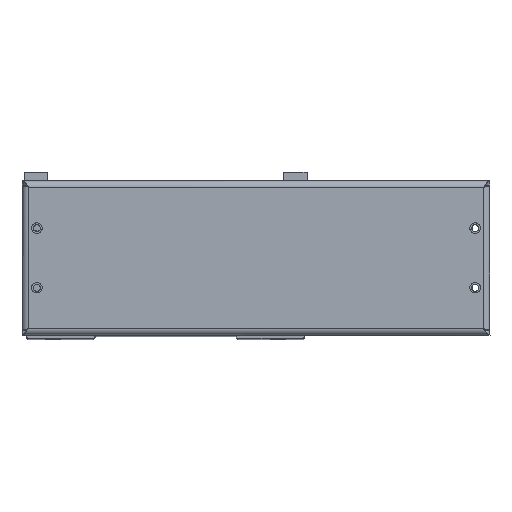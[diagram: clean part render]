
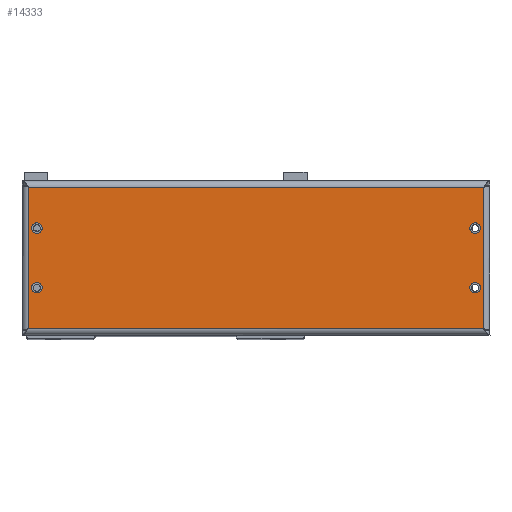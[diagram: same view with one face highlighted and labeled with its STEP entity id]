
A CAD part, top view. The second image highlights one B-rep face of the part: STEP entity #14333.
In plain terms, the highlighted planar face has unit normal (0, 0, 1) as drawn and (0, 0, -1) by its records, which use the part's own axes.
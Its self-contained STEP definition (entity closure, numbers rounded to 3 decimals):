
#923 = VERTEX_POINT ( 'NONE', #20163 ) ;
#1189 = DIRECTION ( 'NONE',  ( 0., -1., 0. ) ) ;
#1326 = ORIENTED_EDGE ( 'NONE', *, *, #20600, .F. ) ;
#1400 = DIRECTION ( 'NONE',  ( 0., -1., 0. ) ) ;
#1581 = EDGE_CURVE ( 'NONE', #26733, #30347, #24415, .T. ) ;
#1883 = CARTESIAN_POINT ( 'NONE',  ( 2817.591, 279.134, -52. ) ) ;
#2396 = DIRECTION ( 'NONE',  ( 1., 0., 0. ) ) ;
#2474 = DIRECTION ( 'NONE',  ( 0., -1., 0. ) ) ;
#2994 = LINE ( 'NONE', #3181, #24336 ) ;
#3179 = CARTESIAN_POINT ( 'NONE',  ( 2817.591, 279.134, -52. ) ) ;
#3181 = CARTESIAN_POINT ( 'NONE',  ( 3028.237, 231.884, -52. ) ) ;
#3282 = VERTEX_POINT ( 'NONE', #13689 ) ;
#3433 = CARTESIAN_POINT ( 'NONE',  ( 3023.591, 251.134, -52. ) ) ;
#4009 = ORIENTED_EDGE ( 'NONE', *, *, #29761, .F. ) ;
#4285 = CARTESIAN_POINT ( 'NONE',  ( 3023.591, 279.134, -52. ) ) ;
#4293 = VERTEX_POINT ( 'NONE', #26505 ) ;
#4751 = CARTESIAN_POINT ( 'NONE',  ( 2817.591, 276.634, -52. ) ) ;
#5180 = DIRECTION ( 'NONE',  ( 0., 1., 0. ) ) ;
#5340 = CARTESIAN_POINT ( 'NONE',  ( 3023.591, 281.634, -52. ) ) ;
#5463 = LINE ( 'NONE', #12819, #9671 ) ;
#5600 = EDGE_LOOP ( 'NONE', ( #7021, #1326 ) ) ;
#5905 = DIRECTION ( 'NONE',  ( -1., 0., 0. ) ) ;
#5975 = CARTESIAN_POINT ( 'NONE',  ( 2817.591, 281.634, -52. ) ) ;
#6000 = ORIENTED_EDGE ( 'NONE', *, *, #11256, .T. ) ;
#6008 = VERTEX_POINT ( 'NONE', #11257 ) ;
#6685 = DIRECTION ( 'NONE',  ( 0., -1., 0. ) ) ;
#6817 = DIRECTION ( 'NONE',  ( 0., 0., -1. ) ) ;
#6974 = DIRECTION ( 'NONE',  ( 0., -1., 0. ) ) ;
#7021 = ORIENTED_EDGE ( 'NONE', *, *, #32931, .F. ) ;
#7142 = FACE_BOUND ( 'NONE', #19488, .T. ) ;
#7304 = CARTESIAN_POINT ( 'NONE',  ( 3027.591, 231.884, -52. ) ) ;
#7708 = DIRECTION ( 'NONE',  ( 0., -1., 0. ) ) ;
#7861 = DIRECTION ( 'NONE',  ( 0., 0., -1. ) ) ;
#7975 = CIRCLE ( 'NONE', #23797, 2.5 ) ;
#8033 = AXIS2_PLACEMENT_3D ( 'NONE', #3179, #15995, #16968 ) ;
#8364 = ORIENTED_EDGE ( 'NONE', *, *, #13301, .F. ) ;
#8413 = LINE ( 'NONE', #18846, #11291 ) ;
#9671 = VECTOR ( 'NONE', #2396, 1000. ) ;
#9830 = AXIS2_PLACEMENT_3D ( 'NONE', #4285, #6817, #9900 ) ;
#9900 = DIRECTION ( 'NONE',  ( 0., -1., 0. ) ) ;
#10560 = EDGE_CURVE ( 'NONE', #923, #28933, #20935, .T. ) ;
#10979 = CARTESIAN_POINT ( 'NONE',  ( 3023.591, 253.634, -52. ) ) ;
#10988 = EDGE_CURVE ( 'NONE', #26221, #26600, #20589, .T. ) ;
#11256 = EDGE_CURVE ( 'NONE', #4293, #923, #5463, .T. ) ;
#11257 = CARTESIAN_POINT ( 'NONE',  ( 2817.591, 253.634, -52. ) ) ;
#11291 = VECTOR ( 'NONE', #5180, 1000. ) ;
#12798 = VERTEX_POINT ( 'NONE', #30054 ) ;
#12819 = CARTESIAN_POINT ( 'NONE',  ( 2812.944, 298.384, -52. ) ) ;
#12828 = CARTESIAN_POINT ( 'NONE',  ( 2817.591, 251.134, -52. ) ) ;
#13301 = EDGE_CURVE ( 'NONE', #26600, #26221, #19579, .T. ) ;
#13548 = DIRECTION ( 'NONE',  ( 0., 0., -1. ) ) ;
#13618 = EDGE_LOOP ( 'NONE', ( #6000, #30188, #26765, #14777 ) ) ;
#13689 = CARTESIAN_POINT ( 'NONE',  ( 2817.591, 248.634, -52. ) ) ;
#13879 = EDGE_LOOP ( 'NONE', ( #8364, #23659 ) ) ;
#14333 = ADVANCED_FACE ( 'NONE', ( #7142, #19944, #30228, #30570, #23191 ), #30394, .T. ) ;
#14777 = ORIENTED_EDGE ( 'NONE', *, *, #28226, .T. ) ;
#15069 = ORIENTED_EDGE ( 'NONE', *, *, #1581, .F. ) ;
#15539 = AXIS2_PLACEMENT_3D ( 'NONE', #1883, #32340, #6685 ) ;
#15995 = DIRECTION ( 'NONE',  ( 0., 0., -1. ) ) ;
#16023 = CIRCLE ( 'NONE', #24757, 2.5 ) ;
#16549 = DIRECTION ( 'NONE',  ( 0., 0., -1. ) ) ;
#16968 = DIRECTION ( 'NONE',  ( 0., -1., 0. ) ) ;
#17108 = CIRCLE ( 'NONE', #21469, 2.5 ) ;
#17342 = DIRECTION ( 'NONE',  ( 0., 0., -1. ) ) ;
#17733 = DIRECTION ( 'NONE',  ( 0., 0., -1. ) ) ;
#18824 = CARTESIAN_POINT ( 'NONE',  ( 3023.591, 279.134, -52. ) ) ;
#18846 = CARTESIAN_POINT ( 'NONE',  ( 2813.591, 231.238, -52. ) ) ;
#19430 = EDGE_CURVE ( 'NONE', #30347, #26733, #29737, .T. ) ;
#19488 = EDGE_LOOP ( 'NONE', ( #21324, #15069 ) ) ;
#19491 = DIRECTION ( 'NONE',  ( 0., -1., 0. ) ) ;
#19579 = CIRCLE ( 'NONE', #9830, 2.5 ) ;
#19883 = CARTESIAN_POINT ( 'NONE',  ( 3023.591, 251.134, -52. ) ) ;
#19944 = FACE_BOUND ( 'NONE', #5600, .T. ) ;
#20163 = CARTESIAN_POINT ( 'NONE',  ( 3027.591, 298.384, -52. ) ) ;
#20589 = CIRCLE ( 'NONE', #29864, 2.5 ) ;
#20600 = EDGE_CURVE ( 'NONE', #6008, #3282, #23244, .T. ) ;
#20935 = LINE ( 'NONE', #31368, #33104 ) ;
#21324 = ORIENTED_EDGE ( 'NONE', *, *, #19430, .F. ) ;
#21469 = AXIS2_PLACEMENT_3D ( 'NONE', #19883, #17342, #1400 ) ;
#22165 = CARTESIAN_POINT ( 'NONE',  ( 2817.591, 251.134, -52. ) ) ;
#23191 = FACE_OUTER_BOUND ( 'NONE', #13618, .T. ) ;
#23244 = CIRCLE ( 'NONE', #29812, 2.5 ) ;
#23659 = ORIENTED_EDGE ( 'NONE', *, *, #10988, .F. ) ;
#23797 = AXIS2_PLACEMENT_3D ( 'NONE', #22165, #16549, #27143 ) ;
#24183 = EDGE_CURVE ( 'NONE', #26346, #12798, #17108, .T. ) ;
#24336 = VECTOR ( 'NONE', #5905, 1000. ) ;
#24415 = CIRCLE ( 'NONE', #8033, 2.5 ) ;
#24757 = AXIS2_PLACEMENT_3D ( 'NONE', #3433, #24793, #19491 ) ;
#24793 = DIRECTION ( 'NONE',  ( 0., 0., -1. ) ) ;
#24909 = EDGE_LOOP ( 'NONE', ( #4009, #26149 ) ) ;
#25609 = CARTESIAN_POINT ( 'NONE',  ( 2920.591, 265.134, -52. ) ) ;
#26149 = ORIENTED_EDGE ( 'NONE', *, *, #24183, .F. ) ;
#26221 = VERTEX_POINT ( 'NONE', #5340 ) ;
#26346 = VERTEX_POINT ( 'NONE', #10979 ) ;
#26505 = CARTESIAN_POINT ( 'NONE',  ( 2813.591, 298.384, -52. ) ) ;
#26600 = VERTEX_POINT ( 'NONE', #33192 ) ;
#26733 = VERTEX_POINT ( 'NONE', #5975 ) ;
#26765 = ORIENTED_EDGE ( 'NONE', *, *, #27755, .T. ) ;
#27143 = DIRECTION ( 'NONE',  ( 0., -1., 0. ) ) ;
#27755 = EDGE_CURVE ( 'NONE', #28933, #27888, #2994, .T. ) ;
#27888 = VERTEX_POINT ( 'NONE', #29514 ) ;
#28226 = EDGE_CURVE ( 'NONE', #27888, #4293, #8413, .T. ) ;
#28933 = VERTEX_POINT ( 'NONE', #7304 ) ;
#29514 = CARTESIAN_POINT ( 'NONE',  ( 2813.591, 231.884, -52. ) ) ;
#29737 = CIRCLE ( 'NONE', #15539, 2.5 ) ;
#29761 = EDGE_CURVE ( 'NONE', #12798, #26346, #16023, .T. ) ;
#29812 = AXIS2_PLACEMENT_3D ( 'NONE', #12828, #7861, #7708 ) ;
#29864 = AXIS2_PLACEMENT_3D ( 'NONE', #18824, #13548, #1189 ) ;
#30054 = CARTESIAN_POINT ( 'NONE',  ( 3023.591, 248.634, -52. ) ) ;
#30188 = ORIENTED_EDGE ( 'NONE', *, *, #10560, .T. ) ;
#30228 = FACE_BOUND ( 'NONE', #13879, .T. ) ;
#30347 = VERTEX_POINT ( 'NONE', #4751 ) ;
#30394 = PLANE ( 'NONE',  #31953 ) ;
#30570 = FACE_BOUND ( 'NONE', #24909, .T. ) ;
#31368 = CARTESIAN_POINT ( 'NONE',  ( 3027.591, 299.031, -52. ) ) ;
#31953 = AXIS2_PLACEMENT_3D ( 'NONE', #25609, #17733, #6974 ) ;
#32340 = DIRECTION ( 'NONE',  ( 0., 0., -1. ) ) ;
#32931 = EDGE_CURVE ( 'NONE', #3282, #6008, #7975, .T. ) ;
#33104 = VECTOR ( 'NONE', #2474, 1000. ) ;
#33192 = CARTESIAN_POINT ( 'NONE',  ( 3023.591, 276.634, -52. ) ) ;
